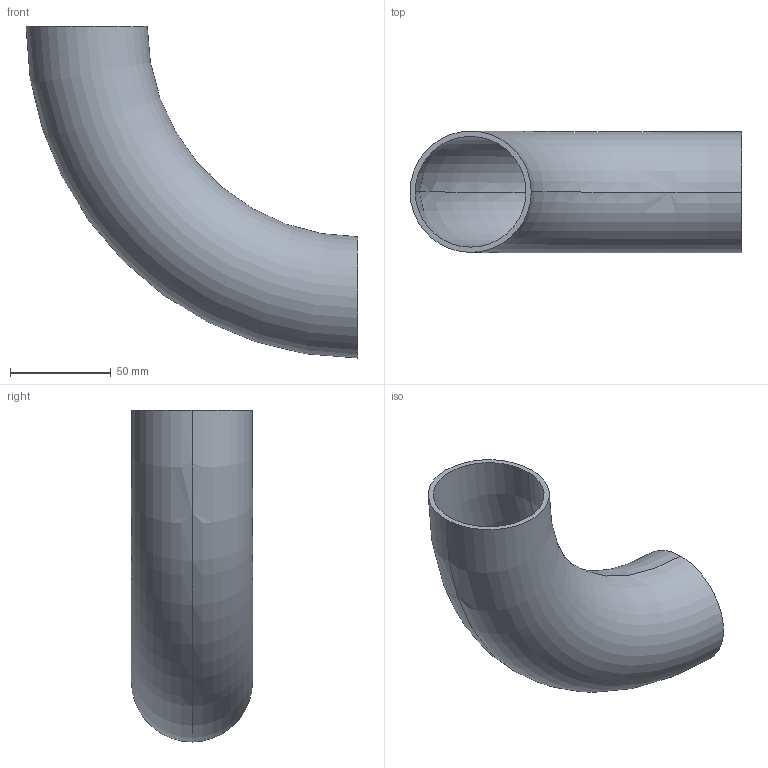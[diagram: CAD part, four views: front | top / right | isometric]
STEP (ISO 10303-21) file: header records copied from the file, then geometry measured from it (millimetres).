
FILE_DESCRIPTION (( 'STEP AP203' ), '1' );
FILE_NAME ('3D_R1655_60.3x2.6_17362220.STEP', '2024-08-05T08:54:28', ( '' ), ( '' ), 'SwSTEP 2.0', 'SolidWorks 2024', '' );
FILE_SCHEMA (( 'CONFIG_CONTROL_DESIGN' ));
Length unit declared in the file: millimetre
Products named in the file (1): 3D_R1655_60.3x2.6_17362220
Bounding box: 165.15 x 60.3 x 165.15 mm (x, y, z)
Volume: 99943.1 mm3; surface area: 77821.9 mm2
Topology: 1 solids, 1 shells, 6 faces, 12 edges, 8 vertices
Faces by surface type: torus 4, plane 2
Entity records: 249 total; most frequent: DIRECTION 38, CARTESIAN_POINT 27, ORIENTED_EDGE 24, AXIS2_PLACEMENT_3D 19, EDGE_CURVE 12, CIRCLE 12, EDGE_LOOP 8, VERTEX_POINT 8
